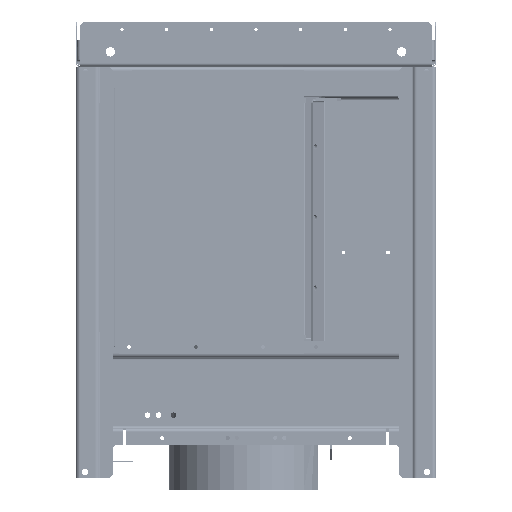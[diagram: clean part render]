
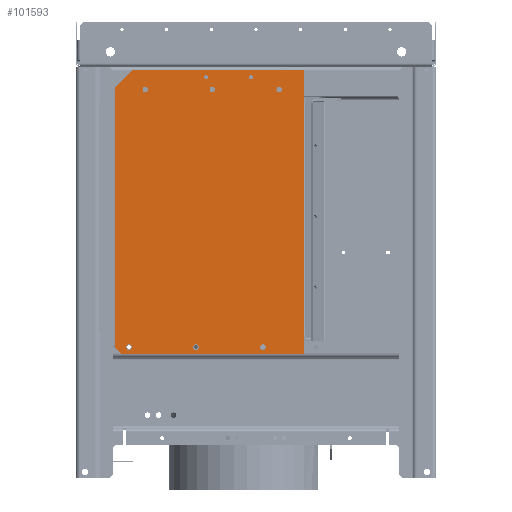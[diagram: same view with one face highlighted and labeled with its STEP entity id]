
A CAD part, left-side view. The second image highlights one B-rep face of the part: STEP entity #101593.
In plain terms, the highlighted planar face has unit normal (-1, 0, 0) as drawn and (0, 0, -1) by its records, which use the part's own axes.
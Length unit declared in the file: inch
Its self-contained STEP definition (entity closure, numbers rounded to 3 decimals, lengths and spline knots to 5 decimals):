
#100443=DIRECTION('',(-1.,0.,0.));
#100444=VECTOR('',#100443,1.25);
#100445=CARTESIAN_POINT('',(9.5315,7.66975,-0.0396));
#100446=LINE('',#100445,#100444);
#100517=DIRECTION('',(1.,0.,0.));
#100518=VECTOR('',#100517,17.4778);
#100519=CARTESIAN_POINT('',(-8.3639,20.34442,-0.0396));
#100520=LINE('',#100519,#100518);
#100539=DIRECTION('',(-0.707,-0.707,0.));
#100540=VECTOR('',#100539,1.65124);
#100541=CARTESIAN_POINT('',(-8.3639,20.34442,-0.0396));
#100542=LINE('',#100541,#100540);
#100543=DIRECTION('',(0.,-1.,0.));
#100544=VECTOR('',#100543,11.50707);
#100545=CARTESIAN_POINT('',(-9.5315,19.17682,-0.0396));
#100546=LINE('',#100545,#100544);
#100547=DIRECTION('',(1.,0.,0.));
#100548=VECTOR('',#100547,2.2);
#100549=CARTESIAN_POINT('',(-9.5315,7.66975,-0.0396));
#100550=LINE('',#100549,#100548);
#100551=DIRECTION('',(0.,1.,0.));
#100552=VECTOR('',#100551,12.25707);
#100553=CARTESIAN_POINT('',(9.5315,7.66975,-0.0396));
#100554=LINE('',#100553,#100552);
#100555=DIRECTION('',(-0.707,0.707,0.));
#100556=VECTOR('',#100555,0.59058);
#100557=CARTESIAN_POINT('',(9.5315,19.92682,-0.0396));
#100558=LINE('',#100557,#100556);
#100559=CARTESIAN_POINT('',(-8.2315,13.82402,-0.0396));
#100560=DIRECTION('',(0.,0.,-1.));
#100561=DIRECTION('',(-1.,0.,0.));
#100562=AXIS2_PLACEMENT_3D('',#100559,#100560,#100561);
#100564=CARTESIAN_POINT('',(-8.2315,13.82402,-0.0396));
#100565=DIRECTION('',(0.,0.,-1.));
#100566=DIRECTION('',(1.,0.,0.));
#100567=AXIS2_PLACEMENT_3D('',#100564,#100565,#100566);
#100569=CARTESIAN_POINT('',(-8.2315,9.32402,-0.0396));
#100570=DIRECTION('',(0.,0.,-1.));
#100571=DIRECTION('',(-1.,0.,0.));
#100572=AXIS2_PLACEMENT_3D('',#100569,#100570,#100571);
#100574=CARTESIAN_POINT('',(-8.2315,9.32402,-0.0396));
#100575=DIRECTION('',(0.,0.,-1.));
#100576=DIRECTION('',(1.,0.,0.));
#100577=AXIS2_PLACEMENT_3D('',#100574,#100575,#100576);
#100579=CARTESIAN_POINT('',(9.0815,19.42402,-0.0396));
#100580=DIRECTION('',(0.,0.,-1.));
#100581=DIRECTION('',(-1.,0.,0.));
#100582=AXIS2_PLACEMENT_3D('',#100579,#100580,#100581);
#100584=CARTESIAN_POINT('',(9.0815,19.42402,-0.0396));
#100585=DIRECTION('',(0.,0.,-1.));
#100586=DIRECTION('',(1.,0.,0.));
#100587=AXIS2_PLACEMENT_3D('',#100584,#100585,#100586);
#100589=CARTESIAN_POINT('',(9.0815,14.92402,-0.0396));
#100590=DIRECTION('',(0.,0.,-1.));
#100591=DIRECTION('',(-1.,0.,0.));
#100592=AXIS2_PLACEMENT_3D('',#100589,#100590,#100591);
#100594=CARTESIAN_POINT('',(9.0815,14.92402,-0.0396));
#100595=DIRECTION('',(0.,0.,-1.));
#100596=DIRECTION('',(1.,0.,0.));
#100597=AXIS2_PLACEMENT_3D('',#100594,#100595,#100596);
#100599=CARTESIAN_POINT('',(9.0815,10.42402,-0.0396));
#100600=DIRECTION('',(0.,0.,-1.));
#100601=DIRECTION('',(-1.,0.,0.));
#100602=AXIS2_PLACEMENT_3D('',#100599,#100600,#100601);
#100604=CARTESIAN_POINT('',(9.0815,10.42402,-0.0396));
#100605=DIRECTION('',(0.,0.,-1.));
#100606=DIRECTION('',(1.,0.,0.));
#100607=AXIS2_PLACEMENT_3D('',#100604,#100605,#100606);
#100609=CARTESIAN_POINT('',(-9.0515,14.22975,-0.0396));
#100610=DIRECTION('',(0.,0.,-1.));
#100611=DIRECTION('',(1.,0.,0.));
#100612=AXIS2_PLACEMENT_3D('',#100609,#100610,#100611);
#100614=CARTESIAN_POINT('',(-9.0515,14.22975,-0.0396));
#100615=DIRECTION('',(0.,0.,-1.));
#100616=DIRECTION('',(-1.,0.,0.));
#100617=AXIS2_PLACEMENT_3D('',#100614,#100615,#100616);
#100619=CARTESIAN_POINT('',(-9.0515,11.22975,-0.0396));
#100620=DIRECTION('',(0.,0.,-1.));
#100621=DIRECTION('',(1.,0.,0.));
#100622=AXIS2_PLACEMENT_3D('',#100619,#100620,#100621);
#100624=CARTESIAN_POINT('',(-9.0515,11.22975,-0.0396));
#100625=DIRECTION('',(0.,0.,-1.));
#100626=DIRECTION('',(-1.,0.,0.));
#100627=AXIS2_PLACEMENT_3D('',#100624,#100625,#100626);
#100629=CARTESIAN_POINT('',(-8.2315,18.32402,-0.0396));
#100630=DIRECTION('',(0.,0.,-1.));
#100631=DIRECTION('',(-1.,0.,0.));
#100632=AXIS2_PLACEMENT_3D('',#100629,#100630,#100631);
#100634=CARTESIAN_POINT('',(-8.2315,18.32402,-0.0396));
#100635=DIRECTION('',(0.,0.,-1.));
#100636=DIRECTION('',(1.,0.,0.));
#100637=AXIS2_PLACEMENT_3D('',#100634,#100635,#100636);
#100643=DIRECTION('',(-1.,0.,0.));
#100644=VECTOR('',#100643,15.613);
#100645=CARTESIAN_POINT('',(8.2815,7.66975,-0.0396));
#100646=LINE('',#100645,#100644);
#100898=CARTESIAN_POINT('',(-9.5315,19.17682,-0.0396));
#100899=VERTEX_POINT('',#100898);
#100900=CARTESIAN_POINT('',(-8.3639,20.34442,-0.0396));
#100901=VERTEX_POINT('',#100900);
#100902=CARTESIAN_POINT('',(-9.5315,7.66975,-0.0396));
#100903=VERTEX_POINT('',#100902);
#100904=CARTESIAN_POINT('',(-7.3315,7.66975,-0.0396));
#100905=VERTEX_POINT('',#100904);
#100962=CARTESIAN_POINT('',(8.2815,7.66975,-0.0396));
#100963=VERTEX_POINT('',#100962);
#100964=CARTESIAN_POINT('',(9.5315,7.66975,-0.0396));
#100965=VERTEX_POINT('',#100964);
#100966=CARTESIAN_POINT('',(9.5315,19.92682,-0.0396));
#100967=VERTEX_POINT('',#100966);
#100968=CARTESIAN_POINT('',(9.1139,20.34442,-0.0396));
#100969=VERTEX_POINT('',#100968);
#100975=CARTESIAN_POINT('',(-8.4215,13.82402,-0.0396));
#100976=CARTESIAN_POINT('',(-8.0415,13.82402,-0.0396));
#100977=VERTEX_POINT('',#100975);
#100978=VERTEX_POINT('',#100976);
#100979=CARTESIAN_POINT('',(-8.4215,9.32402,-0.0396));
#100980=CARTESIAN_POINT('',(-8.0415,9.32402,-0.0396));
#100981=VERTEX_POINT('',#100979);
#100982=VERTEX_POINT('',#100980);
#100983=CARTESIAN_POINT('',(8.8915,19.42402,-0.0396));
#100984=CARTESIAN_POINT('',(9.2715,19.42402,-0.0396));
#100985=VERTEX_POINT('',#100983);
#100986=VERTEX_POINT('',#100984);
#100987=CARTESIAN_POINT('',(8.8915,14.92402,-0.0396));
#100988=CARTESIAN_POINT('',(9.2715,14.92402,-0.0396));
#100989=VERTEX_POINT('',#100987);
#100990=VERTEX_POINT('',#100988);
#100991=CARTESIAN_POINT('',(8.8915,10.42402,-0.0396));
#100992=CARTESIAN_POINT('',(9.2715,10.42402,-0.0396));
#100993=VERTEX_POINT('',#100991);
#100994=VERTEX_POINT('',#100992);
#100995=CARTESIAN_POINT('',(-8.9115,14.22975,-0.0396));
#100996=CARTESIAN_POINT('',(-9.1915,14.22975,-0.0396));
#100997=VERTEX_POINT('',#100995);
#100998=VERTEX_POINT('',#100996);
#100999=CARTESIAN_POINT('',(-8.9115,11.22975,-0.0396));
#101000=CARTESIAN_POINT('',(-9.1915,11.22975,-0.0396));
#101001=VERTEX_POINT('',#100999);
#101002=VERTEX_POINT('',#101000);
#101003=CARTESIAN_POINT('',(-8.4215,18.32402,-0.0396));
#101004=CARTESIAN_POINT('',(-8.0415,18.32402,-0.0396));
#101005=VERTEX_POINT('',#101003);
#101006=VERTEX_POINT('',#101004);
#101529=CARTESIAN_POINT('',(0.,0.,-0.0396));
#101530=DIRECTION('',(0.,0.,1.));
#101531=DIRECTION('',(1.,0.,0.));
#101532=AXIS2_PLACEMENT_3D('',#101529,#101530,#101531);
#101533=PLANE('',#101532);
#101534=ORIENTED_EDGE('',*,*,#101108,.T.);
#101535=ORIENTED_EDGE('',*,*,#101124,.T.);
#101536=ORIENTED_EDGE('',*,*,#101137,.T.);
#101538=ORIENTED_EDGE('',*,*,#101537,.F.);
#101539=ORIENTED_EDGE('',*,*,#101366,.F.);
#101540=ORIENTED_EDGE('',*,*,#101379,.T.);
#101541=ORIENTED_EDGE('',*,*,#101394,.T.);
#101542=ORIENTED_EDGE('',*,*,#101521,.F.);
#101543=EDGE_LOOP('',(#101534,#101535,#101536,#101538,#101539,#101540,#101541,
#101542));
#101544=FACE_OUTER_BOUND('',#101543,.F.);
#101546=ORIENTED_EDGE('',*,*,#101545,.T.);
#101548=ORIENTED_EDGE('',*,*,#101547,.T.);
#101549=EDGE_LOOP('',(#101546,#101548));
#101550=FACE_BOUND('',#101549,.F.);
#101552=ORIENTED_EDGE('',*,*,#101551,.T.);
#101554=ORIENTED_EDGE('',*,*,#101553,.T.);
#101555=EDGE_LOOP('',(#101552,#101554));
#101556=FACE_BOUND('',#101555,.F.);
#101558=ORIENTED_EDGE('',*,*,#101557,.T.);
#101560=ORIENTED_EDGE('',*,*,#101559,.T.);
#101561=EDGE_LOOP('',(#101558,#101560));
#101562=FACE_BOUND('',#101561,.F.);
#101564=ORIENTED_EDGE('',*,*,#101563,.T.);
#101566=ORIENTED_EDGE('',*,*,#101565,.T.);
#101567=EDGE_LOOP('',(#101564,#101566));
#101568=FACE_BOUND('',#101567,.F.);
#101570=ORIENTED_EDGE('',*,*,#101569,.T.);
#101572=ORIENTED_EDGE('',*,*,#101571,.T.);
#101573=EDGE_LOOP('',(#101570,#101572));
#101574=FACE_BOUND('',#101573,.F.);
#101576=ORIENTED_EDGE('',*,*,#101575,.T.);
#101578=ORIENTED_EDGE('',*,*,#101577,.T.);
#101579=EDGE_LOOP('',(#101576,#101578));
#101580=FACE_BOUND('',#101579,.F.);
#101582=ORIENTED_EDGE('',*,*,#101581,.T.);
#101584=ORIENTED_EDGE('',*,*,#101583,.T.);
#101585=EDGE_LOOP('',(#101582,#101584));
#101586=FACE_BOUND('',#101585,.F.);
#101588=ORIENTED_EDGE('',*,*,#101587,.T.);
#101590=ORIENTED_EDGE('',*,*,#101589,.T.);
#101591=EDGE_LOOP('',(#101588,#101590));
#101592=FACE_BOUND('',#101591,.F.);
#101593=ADVANCED_FACE('',(#101544,#101550,#101556,#101562,#101568,#101574,
#101580,#101586,#101592),#101533,.F.);
#100563=CIRCLE('',#100562,0.19);
#100568=CIRCLE('',#100567,0.19);
#100573=CIRCLE('',#100572,0.19);
#100578=CIRCLE('',#100577,0.19);
#100583=CIRCLE('',#100582,0.19);
#100588=CIRCLE('',#100587,0.19);
#100593=CIRCLE('',#100592,0.19);
#100598=CIRCLE('',#100597,0.19);
#100603=CIRCLE('',#100602,0.19);
#100608=CIRCLE('',#100607,0.19);
#100613=CIRCLE('',#100612,0.14);
#100618=CIRCLE('',#100617,0.14);
#100623=CIRCLE('',#100622,0.14);
#100628=CIRCLE('',#100627,0.14);
#100633=CIRCLE('',#100632,0.19);
#100638=CIRCLE('',#100637,0.19);
#101108=EDGE_CURVE('',#100901,#100899,#100542,.T.);
#101124=EDGE_CURVE('',#100899,#100903,#100546,.T.);
#101137=EDGE_CURVE('',#100903,#100905,#100550,.T.);
#101366=EDGE_CURVE('',#100965,#100963,#100446,.T.);
#101379=EDGE_CURVE('',#100965,#100967,#100554,.T.);
#101394=EDGE_CURVE('',#100967,#100969,#100558,.T.);
#101521=EDGE_CURVE('',#100901,#100969,#100520,.T.);
#101537=EDGE_CURVE('',#100963,#100905,#100646,.T.);
#101545=EDGE_CURVE('',#100977,#100978,#100563,.T.);
#101547=EDGE_CURVE('',#100978,#100977,#100568,.T.);
#101551=EDGE_CURVE('',#100981,#100982,#100573,.T.);
#101553=EDGE_CURVE('',#100982,#100981,#100578,.T.);
#101557=EDGE_CURVE('',#100985,#100986,#100583,.T.);
#101559=EDGE_CURVE('',#100986,#100985,#100588,.T.);
#101563=EDGE_CURVE('',#100989,#100990,#100593,.T.);
#101565=EDGE_CURVE('',#100990,#100989,#100598,.T.);
#101569=EDGE_CURVE('',#100993,#100994,#100603,.T.);
#101571=EDGE_CURVE('',#100994,#100993,#100608,.T.);
#101575=EDGE_CURVE('',#100997,#100998,#100613,.T.);
#101577=EDGE_CURVE('',#100998,#100997,#100618,.T.);
#101581=EDGE_CURVE('',#101001,#101002,#100623,.T.);
#101583=EDGE_CURVE('',#101002,#101001,#100628,.T.);
#101587=EDGE_CURVE('',#101005,#101006,#100633,.T.);
#101589=EDGE_CURVE('',#101006,#101005,#100638,.T.);
